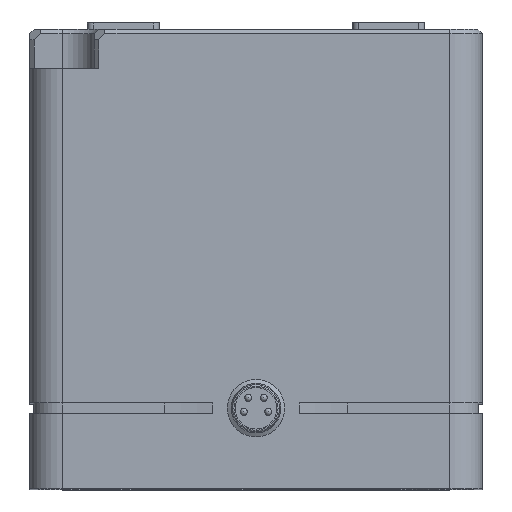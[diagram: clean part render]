
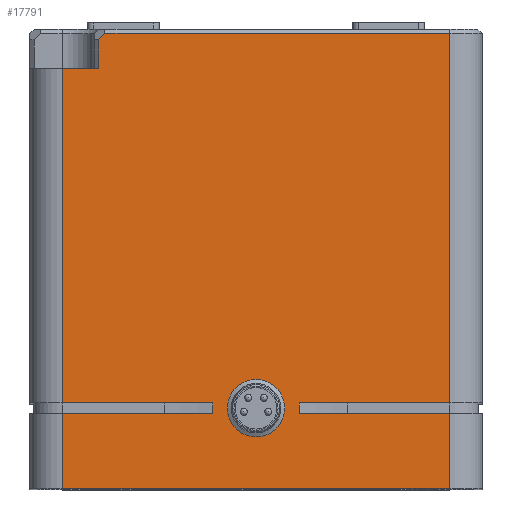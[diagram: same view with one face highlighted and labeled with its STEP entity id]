
A CAD part, top view. The second image highlights one B-rep face of the part: STEP entity #17791.
In plain terms, the highlighted planar face has unit normal (0, 0, 1).
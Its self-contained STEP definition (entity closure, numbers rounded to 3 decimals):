
#2070=PLANE('',#18421);
#2992=FACE_OUTER_BOUND('',#4052,.T.);
#4052=EDGE_LOOP('',(#16212,#16213,#16214,#16215,#16216,#16217,#16218,#16219,
#16220,#16221,#16222,#16223,#16224,#16225,#16226));
#5409=LINE('',#40866,#6840);
#5415=LINE('',#40890,#6846);
#5416=LINE('',#40894,#6847);
#5432=LINE('',#40936,#6863);
#5434=LINE('',#40944,#6865);
#5435=LINE('',#40946,#6866);
#5439=LINE('',#40961,#6870);
#5446=LINE('',#40978,#6877);
#5447=LINE('',#40980,#6878);
#5448=LINE('',#40982,#6879);
#5449=LINE('',#40984,#6880);
#5450=LINE('',#40985,#6881);
#5451=LINE('',#40987,#6882);
#5452=LINE('',#40989,#6883);
#5453=LINE('',#40990,#6884);
#6840=VECTOR('',#20680,10.);
#6846=VECTOR('',#20698,10.);
#6847=VECTOR('',#20703,10.);
#6863=VECTOR('',#20749,10.);
#6865=VECTOR('',#20757,10.);
#6866=VECTOR('',#20758,10.);
#6870=VECTOR('',#20772,10.);
#6877=VECTOR('',#20787,10.);
#6878=VECTOR('',#20788,10.);
#6879=VECTOR('',#20789,10.);
#6880=VECTOR('',#20790,10.);
#6881=VECTOR('',#20791,10.);
#6882=VECTOR('',#20792,10.);
#6883=VECTOR('',#20793,10.);
#6884=VECTOR('',#20794,10.);
#8767=VERTEX_POINT('',#40863);
#8768=VERTEX_POINT('',#40865);
#8779=VERTEX_POINT('',#40887);
#8780=VERTEX_POINT('',#40889);
#8781=VERTEX_POINT('',#40893);
#8792=VERTEX_POINT('',#40935);
#8795=VERTEX_POINT('',#40942);
#8796=VERTEX_POINT('',#40945);
#8802=VERTEX_POINT('',#40959);
#8808=VERTEX_POINT('',#40977);
#8809=VERTEX_POINT('',#40979);
#8810=VERTEX_POINT('',#40981);
#8811=VERTEX_POINT('',#40983);
#8812=VERTEX_POINT('',#40986);
#8813=VERTEX_POINT('',#40988);
#11273=EDGE_CURVE('',#8768,#8767,#5409,.T.);
#11285=EDGE_CURVE('',#8780,#8779,#5415,.T.);
#11287=EDGE_CURVE('',#8779,#8781,#5416,.T.);
#11308=EDGE_CURVE('',#8792,#8768,#5432,.T.);
#11312=EDGE_CURVE('',#8781,#8795,#5434,.T.);
#11313=EDGE_CURVE('',#8796,#8792,#5435,.T.);
#11321=EDGE_CURVE('',#8802,#8767,#5439,.T.);
#11329=EDGE_CURVE('',#8808,#8802,#5446,.T.);
#11330=EDGE_CURVE('',#8808,#8809,#5447,.T.);
#11331=EDGE_CURVE('',#8810,#8809,#5448,.T.);
#11332=EDGE_CURVE('',#8810,#8811,#5449,.T.);
#11333=EDGE_CURVE('',#8780,#8811,#5450,.T.);
#11334=EDGE_CURVE('',#8812,#8795,#5451,.T.);
#11335=EDGE_CURVE('',#8812,#8813,#5452,.T.);
#11336=EDGE_CURVE('',#8796,#8813,#5453,.T.);
#16212=ORIENTED_EDGE('',*,*,#11313,.T.);
#16213=ORIENTED_EDGE('',*,*,#11308,.T.);
#16214=ORIENTED_EDGE('',*,*,#11273,.T.);
#16215=ORIENTED_EDGE('',*,*,#11321,.F.);
#16216=ORIENTED_EDGE('',*,*,#11329,.F.);
#16217=ORIENTED_EDGE('',*,*,#11330,.T.);
#16218=ORIENTED_EDGE('',*,*,#11331,.F.);
#16219=ORIENTED_EDGE('',*,*,#11332,.T.);
#16220=ORIENTED_EDGE('',*,*,#11333,.F.);
#16221=ORIENTED_EDGE('',*,*,#11285,.T.);
#16222=ORIENTED_EDGE('',*,*,#11287,.T.);
#16223=ORIENTED_EDGE('',*,*,#11312,.T.);
#16224=ORIENTED_EDGE('',*,*,#11334,.F.);
#16225=ORIENTED_EDGE('',*,*,#11335,.T.);
#16226=ORIENTED_EDGE('',*,*,#11336,.F.);
#17791=ADVANCED_FACE('',(#2992),#2070,.T.);
#18421=AXIS2_PLACEMENT_3D('',#40976,#20785,#20786);
#20680=DIRECTION('',(1.,0.,0.));
#20698=DIRECTION('',(1.,0.,0.));
#20703=DIRECTION('',(0.,-1.,0.));
#20749=DIRECTION('',(0.,1.,0.));
#20757=DIRECTION('',(-1.,0.,0.));
#20758=DIRECTION('',(-1.,0.,0.));
#20772=DIRECTION('',(0.,-1.,0.));
#20785=DIRECTION('center_axis',(0.,0.,1.));
#20786=DIRECTION('ref_axis',(1.,0.,0.));
#20787=DIRECTION('',(1.,0.,0.));
#20788=DIRECTION('',(-0.707,-0.707,0.));
#20789=DIRECTION('',(0.,1.,0.));
#20790=DIRECTION('',(-1.,0.,0.));
#20791=DIRECTION('',(0.,1.,0.));
#20792=DIRECTION('',(0.,1.,0.));
#20793=DIRECTION('',(1.,0.,0.));
#20794=DIRECTION('',(0.,-1.,0.));
#40863=CARTESIAN_POINT('',(27.,11.95,52.5));
#40865=CARTESIAN_POINT('',(6.,11.95,52.5));
#40866=CARTESIAN_POINT('',(-15.75,11.95,52.5));
#40887=CARTESIAN_POINT('',(-6.,11.95,52.5));
#40889=CARTESIAN_POINT('',(-27.,11.95,52.5));
#40890=CARTESIAN_POINT('',(-15.75,11.95,52.5));
#40893=CARTESIAN_POINT('',(-6.,10.45,52.5));
#40894=CARTESIAN_POINT('',(-6.,11.2,52.5));
#40935=CARTESIAN_POINT('',(6.,10.45,52.5));
#40936=CARTESIAN_POINT('',(6.,11.2,52.5));
#40942=CARTESIAN_POINT('',(-27.,10.45,52.5));
#40944=CARTESIAN_POINT('',(-15.75,10.45,52.5));
#40945=CARTESIAN_POINT('',(27.,10.45,52.5));
#40946=CARTESIAN_POINT('',(-15.75,10.45,52.5));
#40959=CARTESIAN_POINT('',(27.,63.4,52.5));
#40961=CARTESIAN_POINT('',(27.,0.,52.5));
#40976=CARTESIAN_POINT('Origin',(-31.5,0.,52.5));
#40977=CARTESIAN_POINT('',(-21.034,63.4,52.5));
#40978=CARTESIAN_POINT('',(-15.75,63.4,52.5));
#40979=CARTESIAN_POINT('',(-21.9,62.534,52.5));
#40980=CARTESIAN_POINT('',(-39.567,44.867,52.5));
#40981=CARTESIAN_POINT('',(-21.9,58.5,52.5));
#40982=CARTESIAN_POINT('',(-21.9,32.,52.5));
#40983=CARTESIAN_POINT('',(-27.,58.5,52.5));
#40984=CARTESIAN_POINT('',(-15.75,58.5,52.5));
#40985=CARTESIAN_POINT('',(-27.,0.,52.5));
#40986=CARTESIAN_POINT('',(-27.,0.,52.5));
#40987=CARTESIAN_POINT('',(-27.,0.,52.5));
#40988=CARTESIAN_POINT('',(27.,0.,52.5));
#40989=CARTESIAN_POINT('',(-31.5,0.,52.5));
#40990=CARTESIAN_POINT('',(27.,0.,52.5));
